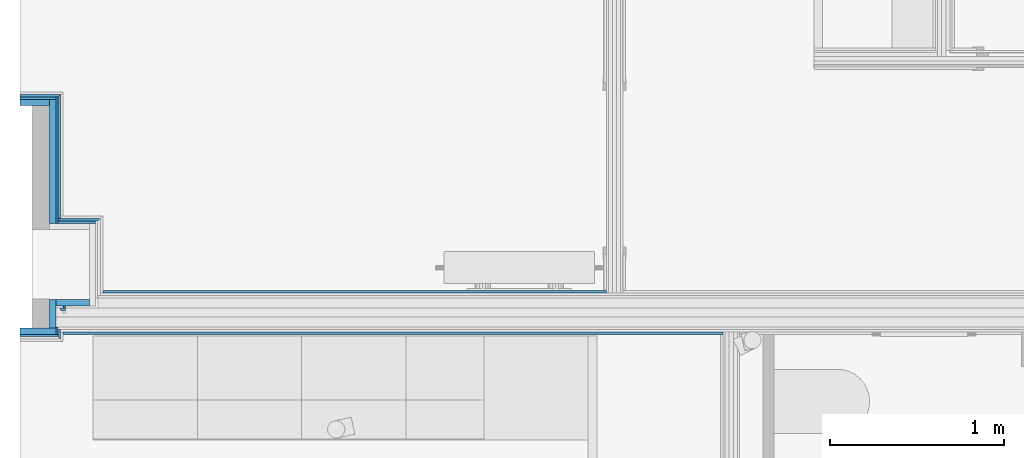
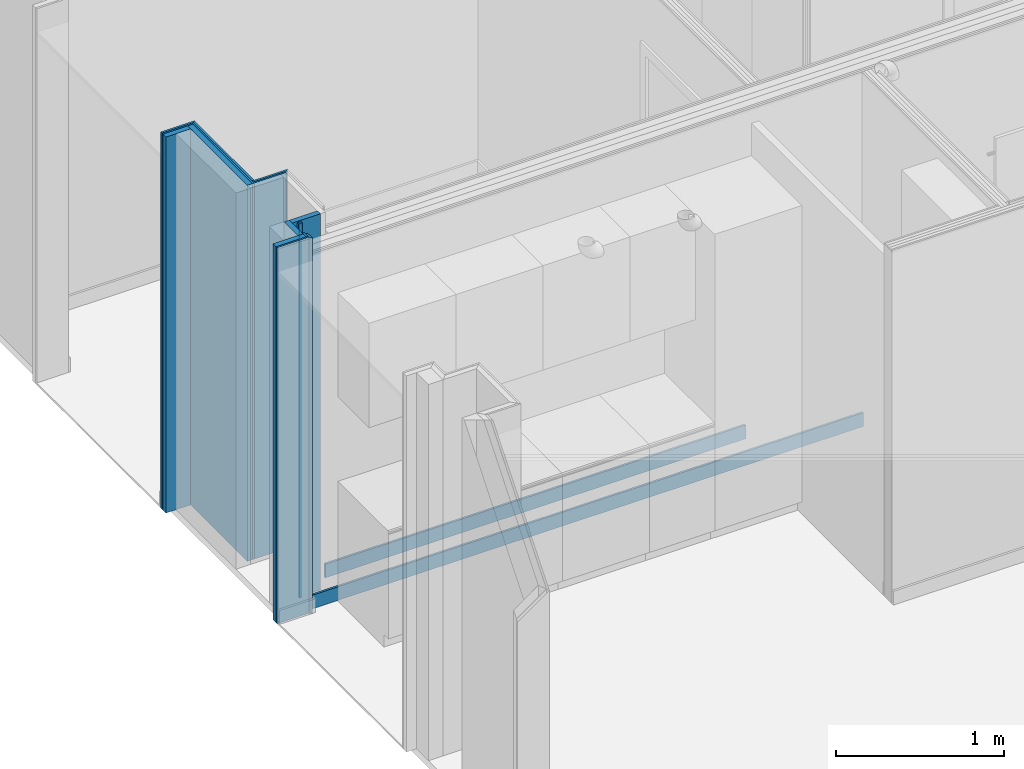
# One storey, part 13 of 82: 18 building element parts, 7 elements without a shape of their own.
"""IFC2X3 building model written with IfcOpenShell, lengths in metres."""

from ifc_helpers import new_model, entity, si_unit, converted_unit, derived_unit, money_unit, direction, frame, frame_2d, origin_with_axes, place, context, subcontext, project, spatial, polyline, rectangle, outline, extrude, material, type_object, element, aggregate, save


model = new_model("IFC2X3")

# Units and contexts
model_context = context("Model", 3, precision=1e-05, world=origin_with_axes(), true_north=direction((0.0, 1.0)))
body_context = subcontext(model_context, "Body", "Model", "MODEL_VIEW", scale=1.0)
ifc_project = project(units=[si_unit("LENGTHUNIT", "METRE"), si_unit("AREAUNIT", "SQUARE_METRE"), si_unit("VOLUMEUNIT", "CUBIC_METRE"), si_unit("ABSORBEDDOSEUNIT", "GRAY"), si_unit("AMOUNTOFSUBSTANCEUNIT", "MOLE"), si_unit("DOSEEQUIVALENTUNIT", "SIEVERT"), si_unit("ELECTRICCAPACITANCEUNIT", "FARAD"), si_unit("ELECTRICCHARGEUNIT", "COULOMB"), si_unit("ELECTRICCONDUCTANCEUNIT", "SIEMENS"), si_unit("ELECTRICCURRENTUNIT", "AMPERE"), si_unit("ELECTRICRESISTANCEUNIT", "OHM"), si_unit("ELECTRICVOLTAGEUNIT", "VOLT"), si_unit("ENERGYUNIT", "JOULE"), si_unit("FORCEUNIT", "NEWTON"), si_unit("FREQUENCYUNIT", "HERTZ"), si_unit("ILLUMINANCEUNIT", "LUX"), si_unit("INDUCTANCEUNIT", "HENRY"), si_unit("LUMINOUSFLUXUNIT", "LUMEN"), si_unit("LUMINOUSINTENSITYUNIT", "CANDELA"), si_unit("MAGNETICFLUXDENSITYUNIT", "TESLA"), si_unit("MAGNETICFLUXUNIT", "WEBER"), si_unit("MASSUNIT", "GRAM"), converted_unit("PLANEANGLEUNIT", "degree", entity("IfcReal", 0.0174532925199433), si_unit("PLANEANGLEUNIT", "RADIAN"), dimensions=[0, 0, 0, 0, 0, 0, 0]), si_unit("POWERUNIT", "WATT"), si_unit("PRESSUREUNIT", "PASCAL"), si_unit("RADIOACTIVITYUNIT", "BECQUEREL"), si_unit("SOLIDANGLEUNIT", "STERADIAN"), si_unit("THERMODYNAMICTEMPERATUREUNIT", "KELVIN"), si_unit("TIMEUNIT", "SECOND"), derived_unit("ACCELERATIONUNIT", [(si_unit("LENGTHUNIT", "METRE"), 1), (si_unit("TIMEUNIT", "SECOND"), -2)]), derived_unit("ANGULARVELOCITYUNIT", [(converted_unit("PLANEANGLEUNIT", "degree", entity("IfcReal", 0.0174532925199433), si_unit("PLANEANGLEUNIT", "RADIAN"), dimensions=[0, 0, 0, 0, 0, 0, 0]), 1), (si_unit("TIMEUNIT", "SECOND"), -1)]), derived_unit("CURVATUREUNIT", [(converted_unit("PLANEANGLEUNIT", "degree", entity("IfcReal", 0.0174532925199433), si_unit("PLANEANGLEUNIT", "RADIAN"), dimensions=[0, 0, 0, 0, 0, 0, 0]), 1), (si_unit("LENGTHUNIT", "METRE"), -1)]), derived_unit("DYNAMICVISCOSITYUNIT", [(si_unit("PRESSUREUNIT", "PASCAL"), 1), (si_unit("TIMEUNIT", "SECOND"), 1)]), derived_unit("HEATFLUXDENSITYUNIT", [(si_unit("POWERUNIT", "WATT"), 1), (si_unit("LENGTHUNIT", "METRE"), -2)]), derived_unit("HEATINGVALUEUNIT", [(si_unit("ENERGYUNIT", "JOULE"), 1), (si_unit("MASSUNIT", "GRAM"), -1)]), derived_unit("INTEGERCOUNTRATEUNIT", [(si_unit("TIMEUNIT", "SECOND"), -1)]), derived_unit("IONCONCENTRATIONUNIT", [(si_unit("MASSUNIT", "GRAM"), 1), (si_unit("VOLUMEUNIT", "CUBIC_METRE"), -1)]), derived_unit("ISOTHERMALMOISTURECAPACITYUNIT", [(si_unit("VOLUMEUNIT", "CUBIC_METRE"), 1), (si_unit("MASSUNIT", "GRAM"), -1)]), derived_unit("KINEMATICVISCOSITYUNIT", [(si_unit("AREAUNIT", "SQUARE_METRE"), 1), (si_unit("TIMEUNIT", "SECOND"), -1)]), derived_unit("LINEARFORCEUNIT", [(si_unit("FORCEUNIT", "NEWTON"), 1), (si_unit("LENGTHUNIT", "METRE"), -1)]), derived_unit("LINEARMOMENTUNIT", [(si_unit("FORCEUNIT", "NEWTON"), 1), (si_unit("LENGTHUNIT", "METRE"), -1)]), derived_unit("LINEARSTIFFNESSUNIT", [(si_unit("FORCEUNIT", "NEWTON"), 1), (si_unit("LENGTHUNIT", "METRE"), -1)]), derived_unit("LINEARVELOCITYUNIT", [(si_unit("LENGTHUNIT", "METRE"), 1), (si_unit("TIMEUNIT", "SECOND"), -1)]), derived_unit("LUMINOUSINTENSITYDISTRIBUTIONUNIT", [(si_unit("LUMINOUSINTENSITYUNIT", "CANDELA"), 1), (si_unit("LUMINOUSFLUXUNIT", "LUMEN"), -1)]), derived_unit("MASSDENSITYUNIT", [(si_unit("MASSUNIT", "GRAM"), 1), (si_unit("VOLUMEUNIT", "CUBIC_METRE"), -1)]), derived_unit("MASSFLOWRATEUNIT", [(si_unit("MASSUNIT", "GRAM"), 1), (si_unit("TIMEUNIT", "SECOND"), -1)]), derived_unit("MASSPERLENGTHUNIT", [(si_unit("MASSUNIT", "GRAM"), 1), (si_unit("LENGTHUNIT", "METRE"), -1)]), derived_unit("MODULUSOFELASTICITYUNIT", [(si_unit("FORCEUNIT", "NEWTON"), 1), (si_unit("AREAUNIT", "SQUARE_METRE"), -1)]), derived_unit("MODULUSOFLINEARSUBGRADEREACTIONUNIT", [(si_unit("FORCEUNIT", "NEWTON"), 1), (si_unit("LENGTHUNIT", "METRE"), -2)]), derived_unit("MODULUSOFROTATIONALSUBGRADEREACTIONUNIT", [(si_unit("FORCEUNIT", "NEWTON"), 1), (si_unit("LENGTHUNIT", "METRE"), 1)]), derived_unit("MODULUSOFSUBGRADEREACTIONUNIT", [(si_unit("FORCEUNIT", "NEWTON"), 1), (si_unit("VOLUMEUNIT", "CUBIC_METRE"), -1)]), derived_unit("MOISTUREDIFFUSIVITYUNIT", [(si_unit("VOLUMEUNIT", "CUBIC_METRE"), 1), (si_unit("TIMEUNIT", "SECOND"), -1)]), derived_unit("MOLECULARWEIGHTUNIT", [(si_unit("MASSUNIT", "GRAM"), 1), (si_unit("AMOUNTOFSUBSTANCEUNIT", "MOLE"), -1)]), derived_unit("PLANARFORCEUNIT", [(si_unit("FORCEUNIT", "NEWTON"), 1), (si_unit("LENGTHUNIT", "METRE"), -2)]), derived_unit("ROTATIONALFREQUENCYUNIT", [(si_unit("TIMEUNIT", "SECOND"), -1)]), derived_unit("ROTATIONALMASSUNIT", [(si_unit("MASSUNIT", "GRAM"), 1), (si_unit("LENGTHUNIT", "METRE"), 2)]), derived_unit("ROTATIONALSTIFFNESSUNIT", [(si_unit("FORCEUNIT", "NEWTON"), 1), (si_unit("LENGTHUNIT", "METRE"), 1), (converted_unit("PLANEANGLEUNIT", "degree", entity("IfcReal", 0.0174532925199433), si_unit("PLANEANGLEUNIT", "RADIAN"), dimensions=[0, 0, 0, 0, 0, 0, 0]), -1)]), derived_unit("SECTIONAREAINTEGRALUNIT", [(si_unit("LENGTHUNIT", "METRE"), 5)]), derived_unit("SECTIONMODULUSUNIT", [(si_unit("LENGTHUNIT", "METRE"), 3)]), derived_unit("SHEARMODULUSUNIT", [(si_unit("FORCEUNIT", "NEWTON"), 1), (si_unit("AREAUNIT", "SQUARE_METRE"), -1)]), derived_unit("SOUNDPOWERUNIT", [(si_unit("ENERGYUNIT", "JOULE"), 1), (si_unit("TIMEUNIT", "SECOND"), -1)]), derived_unit("SPECIFICHEATCAPACITYUNIT", [(si_unit("FORCEUNIT", "NEWTON"), 1), (si_unit("MASSUNIT", "GRAM"), -1), (si_unit("THERMODYNAMICTEMPERATUREUNIT", "KELVIN"), -1)]), derived_unit("TEMPERATUREGRADIENTUNIT", [(si_unit("THERMODYNAMICTEMPERATUREUNIT", "KELVIN"), 1), (si_unit("LENGTHUNIT", "METRE"), -1)]), derived_unit("THERMALADMITTANCEUNIT", [(si_unit("POWERUNIT", "WATT"), 1), (si_unit("AREAUNIT", "SQUARE_METRE"), -1), (si_unit("THERMODYNAMICTEMPERATUREUNIT", "KELVIN"), -1)]), derived_unit("THERMALCONDUCTANCEUNIT", [(si_unit("POWERUNIT", "WATT"), 1), (si_unit("LENGTHUNIT", "METRE"), -1), (si_unit("THERMODYNAMICTEMPERATUREUNIT", "KELVIN"), -1)]), derived_unit("THERMALEXPANSIONCOEFFICIENTUNIT", [(si_unit("THERMODYNAMICTEMPERATUREUNIT", "KELVIN"), -1)]), derived_unit("THERMALRESISTANCEUNIT", [(si_unit("AREAUNIT", "SQUARE_METRE"), 1), (si_unit("POWERUNIT", "WATT"), -1)]), derived_unit("THERMALTRANSMITTANCEUNIT", [(si_unit("POWERUNIT", "WATT"), 1), (si_unit("AREAUNIT", "SQUARE_METRE"), -1), (si_unit("THERMODYNAMICTEMPERATUREUNIT", "KELVIN"), -1)]), derived_unit("TORQUEUNIT", [(si_unit("FORCEUNIT", "NEWTON"), 1), (si_unit("LENGTHUNIT", "METRE"), 1)]), derived_unit("VAPORPERMEABILITYUNIT", [(si_unit("MASSUNIT", "GRAM"), 1), (si_unit("TIMEUNIT", "SECOND"), -1)]), derived_unit("VOLUMETRICFLOWRATEUNIT", [(si_unit("VOLUMEUNIT", "CUBIC_METRE"), 1), (si_unit("TIMEUNIT", "SECOND"), -1)]), derived_unit("WARPINGCONSTANTUNIT", [(si_unit("LENGTHUNIT", "METRE"), 6)]), derived_unit("WARPINGMOMENTUNIT", [(si_unit("FORCEUNIT", "NEWTON"), 1), (si_unit("LENGTHUNIT", "METRE"), 2)]), money_unit("GBP")], contexts=[model_context])

# Site, building, storey
site_placement = place(None, origin_with_axes())
site = spatial("IfcSite", under=ifc_project, at=site_placement, Name="Site", CompositionType="ELEMENT")
building_placement = place(site_placement, origin_with_axes())
building = spatial("IfcBuilding", under=site, at=building_placement, Name="Building01", CompositionType="ELEMENT")
storey_placement = place(building_placement, frame((0.0, 0.0, 12.13), z_axis=(0.0, 0.0, 1.0), x_axis=(1.0, 0.0, 0.0)))
storey = spatial("IfcBuildingStorey", under=building, at=storey_placement, Name="3F", CompositionType="ELEMENT", Elevation=12.13)

# Wall, building element parts
wall_type_1 = type_object("IfcWallType", Name="SHE_A-Walls_Type01c_Partywall_225mm_twin_tall", PredefinedType="NOTDEFINED")
wall_1_placement = place(storey_placement, frame((7.151669, 8.34767, 0.0), z_axis=(0.0, 0.0, 1.0), x_axis=(-1.0, 0.0, 0.0)))
wall_1 = element("IfcWall", 1, at=wall_1_placement, inside=storey, type_object=wall_type_1, Name="1C", ObjectType="SHE_A-Walls_Type01c_Partywall_225mm_twin_tall")
ifc_material_1 = material(Name="A_BSUK_Walls_Timber")
placement_1 = place(wall_1_placement, origin_with_axes())
building_element_part_1 = element("IfcBuildingElementPart", 2, at=placement_1, material=ifc_material_1, Name="2", context=body_context, shape_type="SweptSolid", body=[
    extrude(rectangle(XDim=0.015, YDim=2.897491, at=frame_2d((5.125745, -0.0955), x_axis=(0.0, -1.0))), frame((0.0, 0.0, 0.015), z_axis=(0.0, 0.0, 1.0), x_axis=(1.0, 0.0, 0.0)), (0.0, 0.0, 1.0), 0.1),
])
building_element_part_2 = element("IfcBuildingElementPart", 3, at=placement_1, material=ifc_material_1, Name="11", context=body_context, shape_type="SweptSolid", body=[
    extrude(rectangle(XDim=0.015, YDim=3.79773, at=frame_2d((4.904804, 0.1445), x_axis=(0.0, -1.0))), frame((0.0, 0.0, 0.015), z_axis=(0.0, 0.0, 1.0), x_axis=(1.0, 0.0, 0.0)), (0.0, 0.0, 1.0), 0.1),
])
aggregate(wall_1, [building_element_part_1, building_element_part_2])

wall_type_2 = type_object("IfcWallType", Name="SHE_A-Walls_Type06f_ExternalWallInsulation_48+15mm", PredefinedType="NOTDEFINED")
wall_2_placement = place(storey_placement, frame((0.27, 8.8, 0.0), z_axis=(0.0, 0.0, 1.0), x_axis=(1.0, 0.0, 0.0)))
wall_2 = element("IfcWall", 4, at=wall_2_placement, inside=storey, type_object=wall_type_2, Name="6F", ObjectType="SHE_A-Walls_Type06f_ExternalWallInsulation_48+15mm")
ifc_material_2 = material(Name="A_BSUK_WallInternal_Finishes_Plasterboard")
placement_2 = place(wall_2_placement, origin_with_axes())
building_element_part_3 = element("IfcBuildingElementPart", 5, at=placement_2, material=ifc_material_2, Name="2", context=body_context, shape_type="SweptSolid", body=[
    extrude(rectangle(XDim=0.217178, YDim=0.012, at=frame_2d((0.156589, 0.042), x_axis=(-1.0, 0.0))), origin_with_axes(), (0.0, 0.0, 1.0), 2.74),
])
building_element_part_4 = element("IfcBuildingElementPart", 6, at=placement_2, material=ifc_material_2, Name="3", context=body_context, shape_type="SweptSolid", body=[
    extrude(outline(polyline([(0.292178, 0.063), (0.048, 0.063), (0.048, 0.048), (0.277178, 0.048), (0.292178, 0.063)])), origin_with_axes(), (0.0, 0.0, 1.0), 2.74),
])
aggregate(wall_2, [building_element_part_3, building_element_part_4])

wall_3_placement = place(storey_placement, frame((0.306, 8.397548, 0.0), z_axis=(0.0, 0.0, 1.0), x_axis=(1.0, 0.0, 0.0)))
wall_3 = element("IfcWall", 7, at=wall_3_placement, inside=storey, type_object=wall_type_2, Name="6F", ObjectType="SHE_A-Walls_Type06f_ExternalWallInsulation_48+15mm")
placement_3 = place(wall_3_placement, origin_with_axes())
building_element_part_5 = element("IfcBuildingElementPart", 8, at=placement_3, material=ifc_material_2, Name="2", context=body_context, shape_type="SweptSolid", body=[
    extrude(rectangle(XDim=0.015, YDim=0.028562, at=frame_2d((0.041281, -0.0555), x_axis=(0.0, -1.0))), origin_with_axes(), (0.0, 0.0, 1.0), 2.74),
])
building_element_part_6 = element("IfcBuildingElementPart", 9, at=placement_3, material=ifc_material_2, Name="3", context=body_context, shape_type="SweptSolid", body=[
    extrude(rectangle(XDim=0.013562, YDim=0.012, at=frame_2d((0.048781, -0.042), x_axis=(1.0, 0.0))), origin_with_axes(), (0.0, 0.0, 1.0), 2.74),
])
ifc_material_3 = material(Name="A_BSUK_Insulation")
building_element_part_7 = element("IfcBuildingElementPart", 10, at=placement_3, material=ifc_material_3, Name="4", context=body_context, shape_type="SweptSolid", body=[
    extrude(rectangle(XDim=0.193178, YDim=0.036, at=frame_2d((0.096589, -0.018), x_axis=(-1.0, 0.0))), origin_with_axes(), (0.0, 0.0, 1.0), 2.74),
])
aggregate(wall_3, [building_element_part_5, building_element_part_6, building_element_part_7])

wall_4_placement = place(storey_placement, frame((0.1, 9.51418, 0.0), z_axis=(0.0, 0.0, 1.0), x_axis=(1.0, 0.0, 0.0)))
wall_4 = element("IfcWall", 11, at=wall_4_placement, inside=storey, type_object=wall_type_2, Name="6F", ObjectType="SHE_A-Walls_Type06f_ExternalWallInsulation_48+15mm")
placement_4 = place(wall_4_placement, origin_with_axes())
building_element_part_8 = element("IfcBuildingElementPart", 12, at=placement_4, material=ifc_material_3, Name="1", context=body_context, shape_type="SweptSolid", body=[
    extrude(rectangle(XDim=0.17, YDim=0.036, at=frame_2d((0.085, 0.018), x_axis=(-1.0, 0.0))), origin_with_axes(), (0.0, 0.0, 1.0), 2.74),
])
building_element_part_9 = element("IfcBuildingElementPart", 13, at=placement_4, material=ifc_material_2, Name="2", context=body_context, shape_type="SweptSolid", body=[
    extrude(rectangle(XDim=0.206, YDim=0.012, at=frame_2d((0.103, 0.042), x_axis=(-1.0, 0.0))), origin_with_axes(), (0.0, 0.0, 1.0), 2.74),
])
building_element_part_10 = element("IfcBuildingElementPart", 14, at=placement_4, material=ifc_material_2, Name="3", context=body_context, shape_type="SweptSolid", body=[
    extrude(outline(polyline([(0.233, 0.063), (0.0, 0.063), (0.0, 0.048), (0.218, 0.048), (0.233, 0.063)])), origin_with_axes(), (0.0, 0.0, 1.0), 2.74),
])
aggregate(wall_4, [building_element_part_8, building_element_part_9, building_element_part_10])

wall_5_placement = place(storey_placement, frame((0.1, 8.233, 0.0), z_axis=(0.0, 0.0, 1.0), x_axis=(1.0, 0.0, 0.0)))
wall_5 = element("IfcWall", 15, at=wall_5_placement, inside=storey, type_object=wall_type_2, Name="6F", ObjectType="SHE_A-Walls_Type06f_ExternalWallInsulation_48+15mm")
placement_5 = place(wall_5_placement, origin_with_axes())
building_element_part_11 = element("IfcBuildingElementPart", 16, at=placement_5, material=ifc_material_2, Name="3", context=body_context, shape_type="SweptSolid", body=[
    extrude(rectangle(XDim=0.218, YDim=0.012, at=frame_2d((0.109, -0.042), x_axis=(-1.0, 0.0))), origin_with_axes(), (0.0, 0.0, 1.0), 2.74),
])
building_element_part_12 = element("IfcBuildingElementPart", 17, at=placement_5, material=ifc_material_3, Name="4", context=body_context, shape_type="SweptSolid", body=[
    extrude(rectangle(XDim=0.206, YDim=0.036, at=frame_2d((0.103, -0.018), x_axis=(-1.0, 0.0))), origin_with_axes(), (0.0, 0.0, 1.0), 2.74),
])
aggregate(wall_5, [building_element_part_11, building_element_part_12])

wall_6_placement = place(storey_placement, frame((0.27, 8.836, 0.0), z_axis=(0.0, 0.0, 1.0), x_axis=(0.0, 1.0, 0.0)))
wall_6 = element("IfcWall", 18, at=wall_6_placement, inside=storey, type_object=wall_type_2, Name="6F", ObjectType="SHE_A-Walls_Type06f_ExternalWallInsulation_48+15mm")
placement_6 = place(wall_6_placement, origin_with_axes())
building_element_part_13 = element("IfcBuildingElementPart", 19, at=placement_6, material=ifc_material_2, Name="2", context=body_context, shape_type="SweptSolid", body=[
    extrude(outline(polyline([(0.72618, -0.048), (0.027, -0.048), (0.027, -0.063), (0.74118, -0.063), (0.72618, -0.048)])), origin_with_axes(), (0.0, 0.0, 1.0), 2.74),
])
building_element_part_14 = element("IfcBuildingElementPart", 20, at=placement_6, material=ifc_material_2, Name="3", context=body_context, shape_type="SweptSolid", body=[
    extrude(rectangle(XDim=0.72618, YDim=0.012, at=frame_2d((0.36309, -0.042), x_axis=(-1.0, 0.0))), origin_with_axes(), (0.0, 0.0, 1.0), 2.74),
])
building_element_part_15 = element("IfcBuildingElementPart", 21, at=placement_6, material=ifc_material_3, Name="4", context=body_context, shape_type="SweptSolid", body=[
    extrude(rectangle(XDim=0.71418, YDim=0.036, at=frame_2d((0.35709, -0.018), x_axis=(-1.0, 0.0))), origin_with_axes(), (0.0, 0.0, 1.0), 2.74),
])
aggregate(wall_6, [building_element_part_13, building_element_part_14, building_element_part_15])

wall_7_placement = place(storey_placement, frame((0.27, 8.233, 0.0), z_axis=(0.0, 0.0, 1.0), x_axis=(0.0, 1.0, 0.0)))
wall_7 = element("IfcWall", 22, at=wall_7_placement, inside=storey, type_object=wall_type_2, Name="6F", ObjectType="SHE_A-Walls_Type06f_ExternalWallInsulation_48+15mm")
placement_7 = place(wall_7_placement, origin_with_axes())
building_element_part_16 = element("IfcBuildingElementPart", 23, at=placement_7, material=ifc_material_2, Name="2", context=body_context, shape_type="SweptSolid", body=[
    extrude(outline(polyline([(-0.048, -0.048), (-0.063, -0.063), (-0.007733, -0.063), (-0.007733, -0.048), (-0.048, -0.048)])), origin_with_axes(), (0.0, 0.0, 1.0), 2.74),
])
building_element_part_17 = element("IfcBuildingElementPart", 24, at=placement_7, material=ifc_material_2, Name="3", context=body_context, shape_type="SweptSolid", body=[
    extrude(rectangle(XDim=0.012, YDim=0.04367, at=frame_2d((-0.014165, -0.042), x_axis=(0.0, -1.0))), origin_with_axes(), (0.0, 0.0, 1.0), 2.74),
])
building_element_part_18 = element("IfcBuildingElementPart", 25, at=placement_7, material=ifc_material_3, Name="4", context=body_context, shape_type="SweptSolid", body=[
    extrude(rectangle(XDim=0.164548, YDim=0.036, at=frame_2d((0.082274, -0.018), x_axis=(-1.0, 0.0))), origin_with_axes(), (0.0, 0.0, 1.0), 2.74),
])
aggregate(wall_7, [building_element_part_16, building_element_part_17, building_element_part_18])

save(model, "model.ifc")
